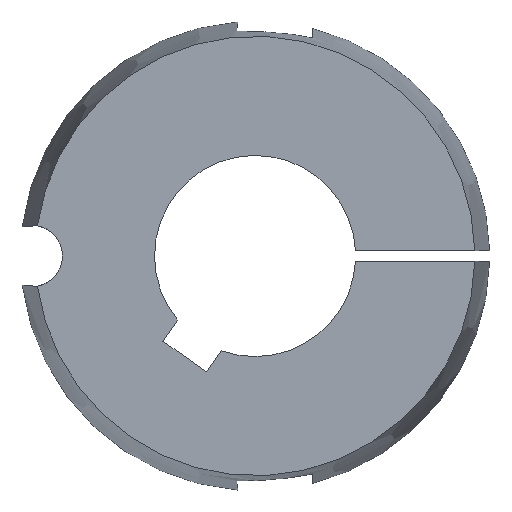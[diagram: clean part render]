
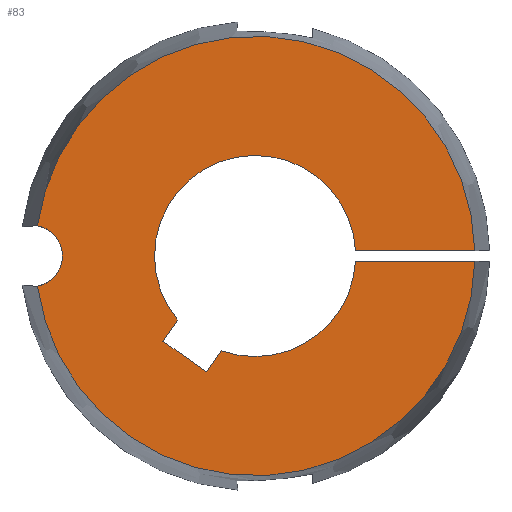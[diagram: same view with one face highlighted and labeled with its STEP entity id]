
A CAD part, left-side view. The second image highlights one B-rep face of the part: STEP entity #83.
In plain terms, the highlighted planar face has unit normal (-1, 0, 0).
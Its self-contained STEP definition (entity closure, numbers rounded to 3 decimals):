
#83 = ADVANCED_FACE( '', ( #108 ), #109, .F. );
#108 = FACE_OUTER_BOUND( '', #140, .T. );
#109 = PLANE( '', #141 );
#140 = EDGE_LOOP( '', ( #220, #221, #222, #223, #224, #225, #226, #227, #228, #229 ) );
#141 = AXIS2_PLACEMENT_3D( '', #230, #231, #232 );
#220 = ORIENTED_EDGE( '', *, *, #293, .T. );
#221 = ORIENTED_EDGE( '', *, *, #319, .F. );
#222 = ORIENTED_EDGE( '', *, *, #320, .T. );
#223 = ORIENTED_EDGE( '', *, *, #305, .T. );
#224 = ORIENTED_EDGE( '', *, *, #303, .T. );
#225 = ORIENTED_EDGE( '', *, *, #300, .T. );
#226 = ORIENTED_EDGE( '', *, *, #310, .T. );
#227 = ORIENTED_EDGE( '', *, *, #321, .T. );
#228 = ORIENTED_EDGE( '', *, *, #294, .T. );
#229 = ORIENTED_EDGE( '', *, *, #322, .F. );
#230 = CARTESIAN_POINT( '', ( -31.8, 0., 0. ) );
#231 = DIRECTION( '', ( 1., 0., 0. ) );
#232 = DIRECTION( '', ( 0., 0., -1. ) );
#293 = EDGE_CURVE( '', #334, #339, #341, .T. );
#294 = EDGE_CURVE( '', #342, #343, #344, .T. );
#300 = EDGE_CURVE( '', #355, #353, #356, .T. );
#303 = EDGE_CURVE( '', #360, #355, #361, .T. );
#305 = EDGE_CURVE( '', #363, #360, #364, .T. );
#310 = EDGE_CURVE( '', #353, #370, #372, .T. );
#319 = EDGE_CURVE( '', #386, #339, #387, .T. );
#320 = EDGE_CURVE( '', #386, #363, #388, .T. );
#321 = EDGE_CURVE( '', #370, #342, #389, .T. );
#322 = EDGE_CURVE( '', #334, #343, #390, .T. );
#334 = VERTEX_POINT( '', #433 );
#339 = VERTEX_POINT( '', #443 );
#341 = CIRCLE( '', #450, 4.6 );
#342 = VERTEX_POINT( '', #451 );
#343 = VERTEX_POINT( '', #452 );
#344 = LINE( '', #453, #454 );
#353 = VERTEX_POINT( '', #472 );
#355 = VERTEX_POINT( '', #475 );
#356 = LINE( '', #476, #477 );
#360 = VERTEX_POINT( '', #483 );
#361 = LINE( '', #484, #485 );
#363 = VERTEX_POINT( '', #488 );
#364 = CIRCLE( '', #489, 15. );
#370 = VERTEX_POINT( '', #497 );
#372 = LINE( '', #500, #501 );
#386 = VERTEX_POINT( '', #516 );
#387 = CIRCLE( '', #517, 32.776 );
#388 = LINE( '', #518, #519 );
#389 = CIRCLE( '', #520, 15. );
#390 = CIRCLE( '', #521, 32.776 );
#433 = CARTESIAN_POINT( '', ( -31.8, 32.464, 4.516 ) );
#443 = CARTESIAN_POINT( '', ( -31.8, 32.464, -4.516 ) );
#450 = AXIS2_PLACEMENT_3D( '', #584, #585, #586 );
#451 = CARTESIAN_POINT( '', ( -31.8, -14.981, 0.75 ) );
#452 = CARTESIAN_POINT( '', ( -31.8, -32.768, 0.75 ) );
#453 = CARTESIAN_POINT( '', ( -31.8, 0., 0.75 ) );
#454 = VECTOR( '', #587, 1000. );
#472 = CARTESIAN_POINT( '', ( -31.8, 13.773, -12.696 ) );
#475 = CARTESIAN_POINT( '', ( -31.8, 7.22, -17.285 ) );
#476 = CARTESIAN_POINT( '', ( -31.8, 7.22, -17.285 ) );
#477 = VECTOR( '', #592, 1000. );
#483 = CARTESIAN_POINT( '', ( -31.8, 5.015, -14.137 ) );
#484 = CARTESIAN_POINT( '', ( -31.8, 5.015, -14.137 ) );
#485 = VECTOR( '', #595, 1000. );
#488 = CARTESIAN_POINT( '', ( -31.8, -14.981, -0.75 ) );
#489 = AXIS2_PLACEMENT_3D( '', #597, #598, #599 );
#497 = CARTESIAN_POINT( '', ( -31.8, 11.569, -9.548 ) );
#500 = CARTESIAN_POINT( '', ( -31.8, 13.773, -12.696 ) );
#501 = VECTOR( '', #606, 1000. );
#516 = CARTESIAN_POINT( '', ( -31.8, -32.768, -0.75 ) );
#517 = AXIS2_PLACEMENT_3D( '', #629, #630, #631 );
#518 = CARTESIAN_POINT( '', ( -31.8, -35., -0.75 ) );
#519 = VECTOR( '', #632, 1000. );
#520 = AXIS2_PLACEMENT_3D( '', #633, #634, #635 );
#521 = AXIS2_PLACEMENT_3D( '', #636, #637, #638 );
#584 = CARTESIAN_POINT( '', ( -31.8, 33.34, 0. ) );
#585 = DIRECTION( '', ( 1., 0., 0. ) );
#586 = DIRECTION( '', ( 0., 1., 0. ) );
#587 = DIRECTION( '', ( 0., -1., 0. ) );
#592 = DIRECTION( '', ( 0., 0.819, 0.574 ) );
#595 = DIRECTION( '', ( 0., 0.574, -0.819 ) );
#597 = CARTESIAN_POINT( '', ( -31.8, 0., 0. ) );
#598 = DIRECTION( '', ( 1., 0., 0. ) );
#599 = DIRECTION( '', ( 0., 0., -1. ) );
#606 = DIRECTION( '', ( 0., -0.574, 0.819 ) );
#629 = CARTESIAN_POINT( '', ( -31.8, 0., 0. ) );
#630 = DIRECTION( '', ( 1., 0., 0. ) );
#631 = DIRECTION( '', ( 0., 0., -1. ) );
#632 = DIRECTION( '', ( 0., 1., 0. ) );
#633 = CARTESIAN_POINT( '', ( -31.8, 0., 0. ) );
#634 = DIRECTION( '', ( 1., 0., 0. ) );
#635 = DIRECTION( '', ( 0., 0., -1. ) );
#636 = CARTESIAN_POINT( '', ( -31.8, 0., 0. ) );
#637 = DIRECTION( '', ( 1., 0., 0. ) );
#638 = DIRECTION( '', ( 0., 0., -1. ) );
